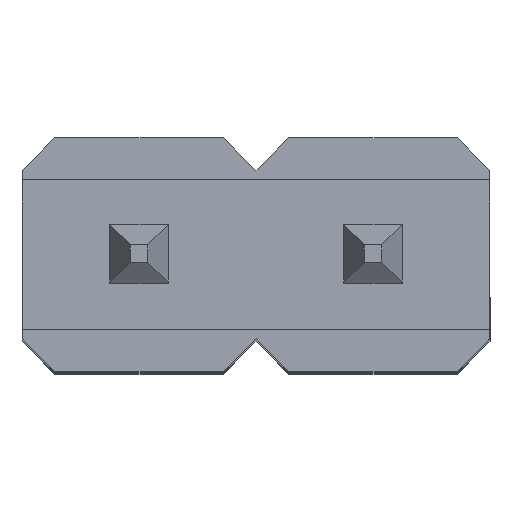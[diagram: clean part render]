
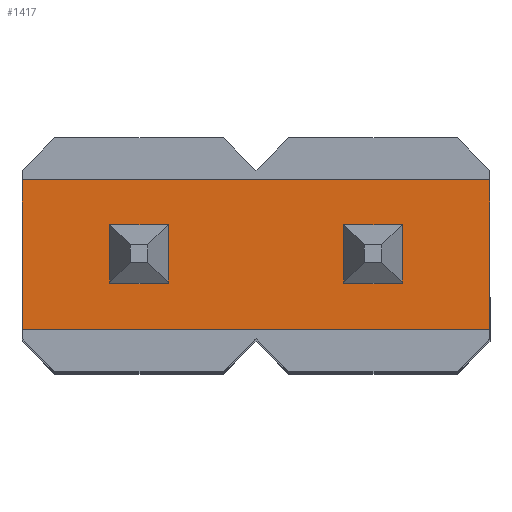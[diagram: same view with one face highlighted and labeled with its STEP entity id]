
A CAD part, top view. The second image highlights one B-rep face of the part: STEP entity #1417.
In plain terms, the highlighted planar face has unit normal (0, 0, 1).
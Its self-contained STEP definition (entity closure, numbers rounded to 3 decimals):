
#4 = EDGE_CURVE ( 'NONE', #366, #365, #217, .T. ) ;
#132 = EDGE_CURVE ( 'NONE', #618, #620, #1029, .T. ) ;
#134 = EDGE_CURVE ( 'NONE', #620, #365, #926, .T. ) ;
#135 = EDGE_CURVE ( 'NONE', #618, #366, #923, .T. ) ;
#217 = LINE ( 'NONE', #2476, #334 ) ;
#334 = VECTOR ( 'NONE', #2597, 1000. ) ;
#365 = VERTEX_POINT ( 'NONE', #2422 ) ;
#366 = VERTEX_POINT ( 'NONE', #2423 ) ;
#618 = VERTEX_POINT ( 'NONE', #2368 ) ;
#620 = VERTEX_POINT ( 'NONE', #2358 ) ;
#653 = EDGE_LOOP ( 'NONE', ( #773, #774, #775, #776 ) ) ;
#773 = ORIENTED_EDGE ( 'NONE', *, *, #134, .T. ) ;
#774 = ORIENTED_EDGE ( 'NONE', *, *, #4, .F. ) ;
#775 = ORIENTED_EDGE ( 'NONE', *, *, #135, .F. ) ;
#776 = ORIENTED_EDGE ( 'NONE', *, *, #132, .T. ) ;
#923 = LINE ( 'NONE', #1914, #1237 ) ;
#924 = VECTOR ( 'NONE', #1921, 1000. ) ;
#925 = VECTOR ( 'NONE', #1931, 1000. ) ;
#926 = LINE ( 'NONE', #1953, #924 ) ;
#945 = FACE_OUTER_BOUND ( 'NONE', #653, .T. ) ;
#1029 = LINE ( 'NONE', #1939, #925 ) ;
#1237 = VECTOR ( 'NONE', #1910, 1000. ) ;
#1417 = ADVANCED_FACE ( 'NONE', ( #945 ), #2202, .T. ) ;
#1571 = AXIS2_PLACEMENT_3D ( 'NONE', #2179, #2178, #2177 ) ;
#1910 = DIRECTION ( 'NONE',  ( 1., 0., 0. ) ) ;
#1914 = CARTESIAN_POINT ( 'NONE',  ( -1.27, 0.813, 15.6 ) ) ;
#1921 = DIRECTION ( 'NONE',  ( 1., 0., 0. ) ) ;
#1931 = DIRECTION ( 'NONE',  ( 0., -1., 0. ) ) ;
#1939 = CARTESIAN_POINT ( 'NONE',  ( -1.27, -0.813, 15.6 ) ) ;
#1953 = CARTESIAN_POINT ( 'NONE',  ( -1.27, -0.813, 15.6 ) ) ;
#2177 = DIRECTION ( 'NONE',  ( 1., 0., 0. ) ) ;
#2178 = DIRECTION ( 'NONE',  ( 0., 0., 1. ) ) ;
#2179 = CARTESIAN_POINT ( 'NONE',  ( -1.27, -0.813, 15.6 ) ) ;
#2202 = PLANE ( 'NONE',  #1571 ) ;
#2358 = CARTESIAN_POINT ( 'NONE',  ( -1.27, -0.813, 15.6 ) ) ;
#2368 = CARTESIAN_POINT ( 'NONE',  ( -1.27, 0.813, 15.6 ) ) ;
#2422 = CARTESIAN_POINT ( 'NONE',  ( 3.81, -0.813, 15.6 ) ) ;
#2423 = CARTESIAN_POINT ( 'NONE',  ( 3.81, 0.813, 15.6 ) ) ;
#2476 = CARTESIAN_POINT ( 'NONE',  ( 3.81, -0.813, 15.6 ) ) ;
#2597 = DIRECTION ( 'NONE',  ( 0., -1., 0. ) ) ;
